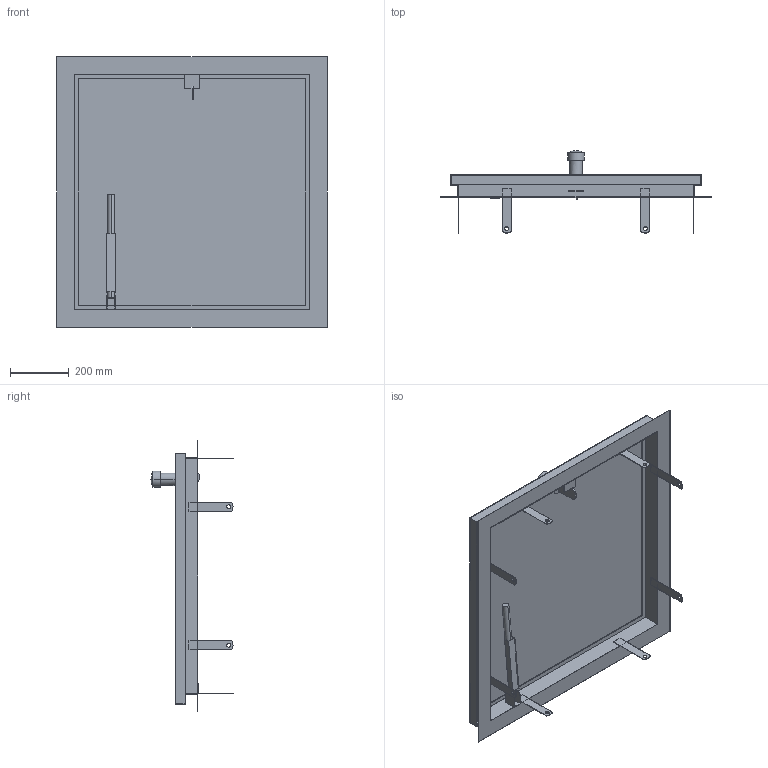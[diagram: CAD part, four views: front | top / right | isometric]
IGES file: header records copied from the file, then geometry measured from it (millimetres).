
Start section:  PTC IGES file: 52335828.igs
Global section: file name: 52335828.igs; native system: Creo Parametric by PTC Inc.; preprocessor: 2022162; author: wep; organization: Unknown; date: 20241219.072810; units: millimetre
Bounding box: 920 x 279 x 920 mm (x, y, z)
Surface area: 2716350.5 mm2 (no closed solid volume)
Topology: 0 solids, 0 shells, 728 faces, 3966 edges, 3964 vertices
Faces by surface type: bspline 416, extrusion 275, revolution 37
